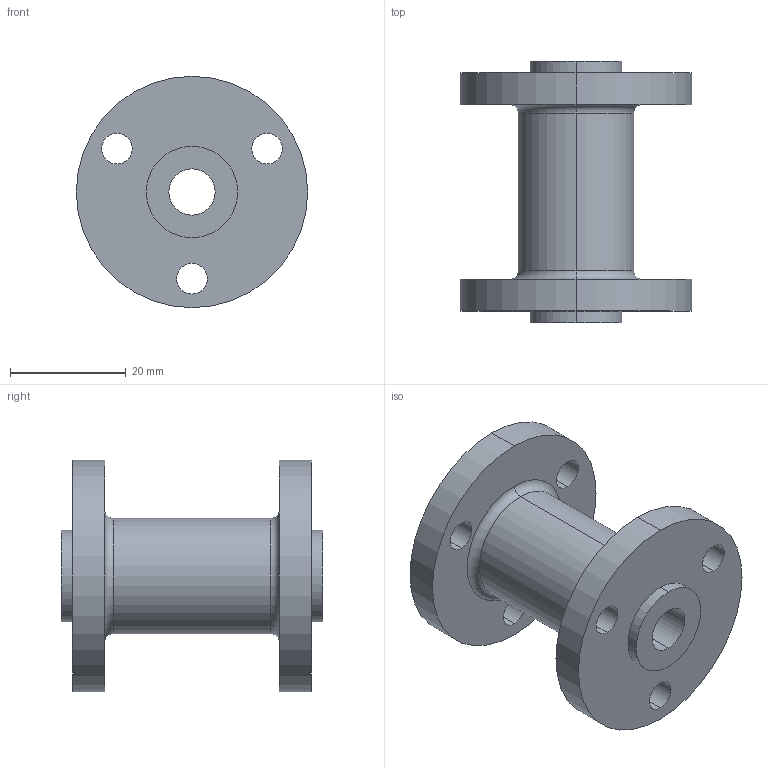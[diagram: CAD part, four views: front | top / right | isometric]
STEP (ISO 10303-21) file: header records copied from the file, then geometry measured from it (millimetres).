
FILE_DESCRIPTION (( 'STEP AP214' ), '1' );
FILE_NAME ('Pressure Vessel_v2.5.STEP', '2023-03-13T17:59:58', ( '' ), ( '' ), 'SwSTEP 2.0', 'SolidWorks 2022', '' );
FILE_SCHEMA (( 'AUTOMOTIVE_DESIGN' ));
Length unit declared in the file: millimetre
Products named in the file (1): Pressure Vessel_v2.5
Bounding box: 40 x 45.2 x 40 mm (x, y, z)
Volume: 18667.1 mm3; surface area: 9757.2 mm2
Topology: 1 solids, 1 shells, 40 faces, 92 edges, 60 vertices
Faces by surface type: cylinder 28, plane 8, torus 4
Entity records: 1230 total; most frequent: DIRECTION 238, CARTESIAN_POINT 193, ORIENTED_EDGE 184, AXIS2_PLACEMENT_3D 105, EDGE_CURVE 92, CIRCLE 64, VERTEX_POINT 60, EDGE_LOOP 60
